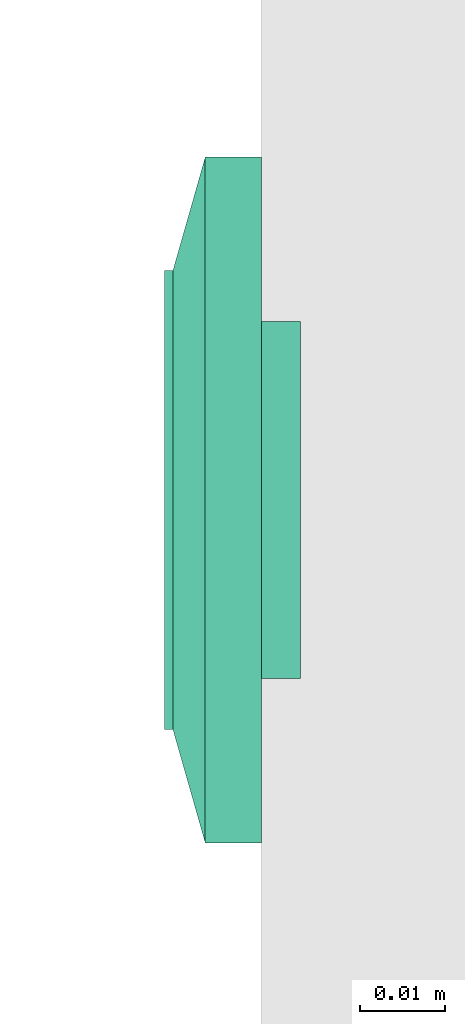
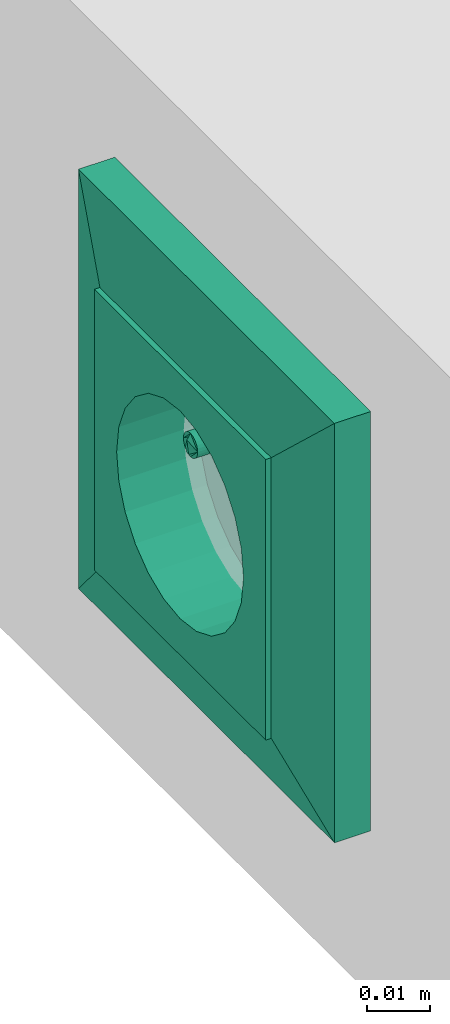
# One storey, part 45 of 166: 1 flow terminal.
"""IFC2X3 building model written with IfcOpenShell, lengths in metres."""

from ifc_helpers import new_model, entity, si_unit, converted_unit, derived_unit, direction, frame, origin, place, context, subcontext, project, spatial, face_set, surface_model, source, transform, mapped, type_object, type_shapes, element, save


model = new_model("IFC2X3")

# Units and contexts
model_context = context("Model", 3, precision=1e-05, world=origin(), true_north=direction((6.12303176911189e-17, 1.0)))
body_context = subcontext(model_context, "Body", "Model", "MODEL_VIEW")
ifc_project = project(units=[si_unit("LENGTHUNIT", "METRE"), si_unit("AREAUNIT", "SQUARE_METRE"), si_unit("VOLUMEUNIT", "CUBIC_METRE"), converted_unit("PLANEANGLEUNIT", "DEGREE", entity("IfcRatioMeasure", 0.0174532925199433), si_unit("PLANEANGLEUNIT", "RADIAN"), dimensions=[0, 0, 0, 0, 0, 0, 0]), si_unit("MASSUNIT", "GRAM", prefix="KILO"), derived_unit("MASSDENSITYUNIT", [(si_unit("MASSUNIT", "GRAM", prefix="KILO"), 1), (si_unit("LENGTHUNIT", "METRE"), -3)]), si_unit("TIMEUNIT", "SECOND"), si_unit("FREQUENCYUNIT", "HERTZ"), si_unit("THERMODYNAMICTEMPERATUREUNIT", "DEGREE_CELSIUS"), derived_unit("THERMALTRANSMITTANCEUNIT", [(si_unit("MASSUNIT", "GRAM", prefix="KILO"), 1), (si_unit("THERMODYNAMICTEMPERATUREUNIT", "KELVIN"), -1), (si_unit("TIMEUNIT", "SECOND"), -3)]), derived_unit("VOLUMETRICFLOWRATEUNIT", [(si_unit("LENGTHUNIT", "METRE"), 3), (si_unit("TIMEUNIT", "SECOND"), -1)]), si_unit("ELECTRICCURRENTUNIT", "AMPERE"), si_unit("ELECTRICVOLTAGEUNIT", "VOLT"), si_unit("POWERUNIT", "WATT"), si_unit("FORCEUNIT", "NEWTON"), si_unit("ILLUMINANCEUNIT", "LUX"), si_unit("LUMINOUSFLUXUNIT", "LUMEN"), si_unit("LUMINOUSINTENSITYUNIT", "CANDELA"), derived_unit("USERDEFINED", [(si_unit("MASSUNIT", "GRAM", prefix="KILO"), -1), (si_unit("LENGTHUNIT", "METRE"), -2), (si_unit("TIMEUNIT", "SECOND"), 3), (si_unit("LUMINOUSFLUXUNIT", "LUMEN"), 1)]), derived_unit("LINEARVELOCITYUNIT", [(si_unit("LENGTHUNIT", "METRE"), 1), (si_unit("TIMEUNIT", "SECOND"), -1)]), si_unit("PRESSUREUNIT", "PASCAL"), derived_unit("USERDEFINED", [(si_unit("LENGTHUNIT", "METRE"), -2), (si_unit("MASSUNIT", "GRAM", prefix="KILO"), 1), (si_unit("TIMEUNIT", "SECOND"), -2)])], contexts=[model_context])

# Site, building, storey
site_placement = place(None, origin())
site = spatial("IfcSite", under=ifc_project, at=site_placement, Name="Default", CompositionType="ELEMENT")
building_placement = place(site_placement, origin())
building = spatial("IfcBuilding", under=site, at=building_placement, CompositionType="ELEMENT")
storey_placement = place(building_placement, frame((0.0, 0.0, 4.27)))
storey = spatial("IfcBuildingStorey", under=building, at=storey_placement, Name="01", CompositionType="ELEMENT", Elevation=4.27)

# Flow terminal
light_fixture_type = type_object("IfcLightFixtureType", Name="PC IP20", PredefinedType="NOTDEFINED")
shared_shape = source(origin(), body_context, "Body", "SurfaceModel", [
    surface_model("IfcFaceBasedSurfaceModel", [(-0.00225000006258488, 0.0127499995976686, 0.00949633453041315), (0.0, 0.0104999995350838, 0.00949633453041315), (0.0, 0.0115376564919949, 0.0101656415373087), (0.0, 0.0139623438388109, 0.0101656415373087), (0.0, 0.0144589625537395, 0.00984531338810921), (0.0, 0.0121178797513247, 0.0102778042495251), (0.0, 0.0133821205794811, 0.0102778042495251), (0.0, 0.0127499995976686, 0.010399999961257), (0.0, 0.0149999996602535, 0.00949633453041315), (0.00225000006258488, 0.0127499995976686, 0.00949633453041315), (0.0, 0.0110410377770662, 0.00984531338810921), (0.0, 0.0127499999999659, 0.00949633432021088), (0.00225000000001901, 0.0127499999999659, 0.00949633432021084), (0.00217333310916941, 0.0121676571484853, 0.00949633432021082), (0.00194855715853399, 0.0116249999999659, 0.00949633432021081), (0.00159099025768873, 0.0111590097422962, 0.00949633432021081), (0.001125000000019, 0.010801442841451, 0.00949633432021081), (0.00058234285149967, 0.0105766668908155, 0.00949633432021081), (0.0, 0.0104999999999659, 0.00949633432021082), (-0.000582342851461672, 0.0105766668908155, 0.00949633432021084), (-0.001124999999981, 0.010801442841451, 0.00949633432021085), (-0.00159099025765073, 0.0111590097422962, 0.00949633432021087), (-0.00194855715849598, 0.011624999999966, 0.00949633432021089), (-0.0021733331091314, 0.0121676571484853, 0.00949633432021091), (-0.00224999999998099, 0.012749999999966, 0.00949633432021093), (-0.00217333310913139, 0.0133323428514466, 0.00949633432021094), (-0.00194855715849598, 0.013874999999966, 0.00949633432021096), (-0.00159099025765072, 0.0143409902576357, 0.00949633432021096), (-0.00112499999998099, 0.0146985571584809, 0.00949633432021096), (-0.00058234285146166, 0.0149233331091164, 0.00949633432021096), (0.0, 0.0149999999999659, 0.00949633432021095), (0.000582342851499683, 0.0149233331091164, 0.00949633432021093), (0.00112500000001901, 0.0146985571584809, 0.00949633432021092), (0.00159099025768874, 0.0143409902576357, 0.00949633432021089), (0.001948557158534, 0.0138749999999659, 0.00949633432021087), (0.00217333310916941, 0.0133323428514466, 0.00949633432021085), (0.00225000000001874, 0.0127499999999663, -0.00360000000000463), (0.00217333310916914, 0.0121676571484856, -0.00360000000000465), (0.00194855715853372, 0.0116249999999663, -0.00360000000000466), (0.00159099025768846, 0.0111590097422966, -0.00360000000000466), (0.00112500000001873, 0.0108014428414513, -0.00360000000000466), (0.000582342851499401, 0.0105766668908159, -0.00360000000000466), (0.0, 0.0104999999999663, -0.00360000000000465), (-0.000582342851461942, 0.0105766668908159, -0.00360000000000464), (-0.00112499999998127, 0.0108014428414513, -0.00360000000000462), (-0.001590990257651, 0.0111590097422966, -0.0036000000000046), (-0.00194855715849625, 0.0116249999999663, -0.00360000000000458), (-0.00217333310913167, 0.0121676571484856, -0.00360000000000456), (-0.00224999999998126, 0.0127499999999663, -0.00360000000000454), (-0.00217333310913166, 0.013332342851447, -0.00360000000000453), (-0.00194855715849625, 0.0138749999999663, -0.00360000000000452), (-0.00159099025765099, 0.014340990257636, -0.00360000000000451), (-0.00112499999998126, 0.0146985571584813, -0.00360000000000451), (-0.000582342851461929, 0.0149233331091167, -0.00360000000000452), (0.0, 0.0149999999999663, -0.00360000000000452), (0.000582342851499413, 0.0149233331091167, -0.00360000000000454), (0.00112500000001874, 0.0146985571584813, -0.00360000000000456), (0.00159099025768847, 0.014340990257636, -0.00360000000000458), (0.00194855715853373, 0.0138749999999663, -0.0036000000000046), (0.00217333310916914, 0.013332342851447, -0.00360000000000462), (0.0270000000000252, 0.026999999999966, 0.0113999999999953), (-0.0269999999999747, 0.026999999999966, 0.0113999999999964), (-0.0269999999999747, -0.0270000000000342, 0.0113999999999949), (0.0270000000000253, -0.0270000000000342, 0.0113999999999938), (-0.0199999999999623, 0.0, 0.0113999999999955), (-0.0193185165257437, -0.00517638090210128, 0.0113999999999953), (-0.0173205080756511, -0.0100000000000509, 0.0113999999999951), (-0.0141421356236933, -0.0141421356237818, 0.011399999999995), (-0.00999999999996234, -0.0173205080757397, 0.0113999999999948), (-0.00517638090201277, -0.0193185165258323, 0.0113999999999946), (0.0, -0.0200000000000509, 0.0113999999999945), (0.00517638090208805, -0.0193185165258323, 0.0113999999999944), (0.0100000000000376, -0.0173205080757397, 0.0113999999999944), (0.0141421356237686, -0.0141421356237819, 0.0113999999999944), (0.0173205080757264, -0.010000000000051, 0.0113999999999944), (0.0193185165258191, -0.00517638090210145, 0.0113999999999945), (0.0200000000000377, 0.0, 0.0113999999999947), (0.0193185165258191, 0.00517638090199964, 0.0113999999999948), (0.0173205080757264, 0.0099999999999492, 0.011399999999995), (0.0141421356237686, 0.0141421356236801, 0.0113999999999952), (0.0100000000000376, 0.0173205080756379, 0.0113999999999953), (0.00517638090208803, 0.0193185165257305, 0.0113999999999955), (0.0, 0.0199999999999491, 0.0113999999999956), (-0.00517638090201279, 0.0193185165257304, 0.0113999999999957), (-0.00999999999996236, 0.0173205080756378, 0.0113999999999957), (-0.0141421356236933, 0.01414213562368, 0.0113999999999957), (-0.0173205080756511, 0.00999999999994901, 0.0113999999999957), (-0.0193185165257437, 0.00517638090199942, 0.0113999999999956), (0.0270000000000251, 0.0269999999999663, 0.00199999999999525), (0.0270000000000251, -0.0270000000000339, 0.00199999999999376), (-0.0269999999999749, -0.0270000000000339, 0.00199999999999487), (-0.0269999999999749, 0.0269999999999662, 0.00199999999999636), (0.0210000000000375, 0.0, 0.00199999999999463), (0.0202844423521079, -0.00543519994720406, 0.00199999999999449), (0.0181865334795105, -0.0105000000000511, 0.0019999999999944), (0.0148492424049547, -0.0148492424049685, 0.00199999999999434), (0.0105000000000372, -0.0181865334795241, 0.00199999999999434), (0.0054351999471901, -0.0202844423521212, 0.00199999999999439), (0.0, -0.0210000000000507, 0.00199999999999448), (-0.00543519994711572, -0.020284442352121, 0.00199999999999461), (-0.0104999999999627, -0.0181865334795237, 0.00199999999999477), (-0.0148492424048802, -0.014849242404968, 0.00199999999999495), (-0.0181865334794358, -0.0105000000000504, 0.00199999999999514), (-0.020284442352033, -0.00543519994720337, 0.00199999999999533), (-0.0209999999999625, 0.0, 0.00199999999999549), (-0.0202844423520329, 0.0054351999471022, 0.00199999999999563), (-0.0181865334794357, 0.0104999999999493, 0.00199999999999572), (-0.01484924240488, 0.0148492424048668, 0.00199999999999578), (-0.0104999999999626, 0.0181865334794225, 0.00199999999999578), (-0.00543519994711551, 0.0202844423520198, 0.00199999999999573), (0.0, 0.0209999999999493, 0.00199999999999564), (0.00543519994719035, 0.0202844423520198, 0.00199999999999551), (0.0105000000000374, 0.0181865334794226, 0.00199999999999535), (0.0148492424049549, 0.0148492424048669, 0.00199999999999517), (0.0181865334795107, 0.0104999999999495, 0.00199999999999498), (0.0202844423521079, 0.00543519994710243, 0.00199999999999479), (0.0200000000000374, 0.0, -0.00360000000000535), (0.0193185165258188, -0.00517638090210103, -0.00360000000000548), (0.0173205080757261, -0.0100000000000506, -0.00360000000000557), (0.0141421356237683, -0.0141421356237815, -0.00360000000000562), (0.0100000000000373, -0.0173205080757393, -0.00360000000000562), (0.00517638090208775, -0.0193185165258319, -0.00360000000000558), (0.0, -0.0200000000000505, -0.00360000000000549), (-0.00517638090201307, -0.0193185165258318, -0.00360000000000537), (-0.00999999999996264, -0.0173205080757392, -0.00360000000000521), (-0.0141421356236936, -0.0141421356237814, -0.00360000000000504), (-0.0173205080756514, -0.0100000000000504, -0.00360000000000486), (-0.019318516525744, -0.00517638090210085, -0.00360000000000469), (-0.0199999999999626, 0.0, -0.00360000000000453), (-0.0193185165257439, 0.00517638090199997, -0.0036000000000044), (-0.0173205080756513, 0.00999999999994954, -0.00360000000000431), (-0.0141421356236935, 0.0141421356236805, -0.00360000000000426), (-0.00999999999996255, 0.0173205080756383, -0.00360000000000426), (-0.00517638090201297, 0.0193185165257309, -0.0036000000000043), (0.0, 0.0199999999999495, -0.00360000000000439), (0.00517638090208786, 0.0193185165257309, -0.00360000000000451), (0.0100000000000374, 0.0173205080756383, -0.00360000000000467), (0.0141421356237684, 0.0141421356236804, -0.00360000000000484), (0.0173205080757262, 0.0099999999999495, -0.00360000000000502), (0.0193185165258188, 0.00517638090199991, -0.00360000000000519), (-0.0123499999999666, 0.0, -0.00360000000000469), (-0.0122562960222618, -0.000711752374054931, -0.00360000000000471), (-0.0119815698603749, -0.00137500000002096, -0.00360000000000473), (-0.0115445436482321, -0.00194454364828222, -0.00360000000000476), (-0.0109749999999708, -0.00238156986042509, -0.00360000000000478), (-0.0103117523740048, -0.00265629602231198, -0.0036000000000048), (-0.00959999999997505, -0.00275000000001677, -0.00360000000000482), (-0.0088882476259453, -0.00265629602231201, -0.00360000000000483), (-0.00822499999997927, -0.00238156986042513, -0.00360000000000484), (-0.00765545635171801, -0.00194454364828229, -0.00360000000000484), (-0.00721843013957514, -0.00137500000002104, -0.00360000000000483), (-0.00694370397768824, -0.000711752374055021, -0.00360000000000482), (-0.00684999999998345, 0.0, -0.0036000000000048), (-0.00694370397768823, 0.000711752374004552, -0.00360000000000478), (-0.00721843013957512, 0.00137499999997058, -0.00360000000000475), (-0.00765545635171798, 0.00194454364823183, -0.00360000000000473), (-0.00822499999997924, 0.00238156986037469, -0.0036000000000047), (-0.00888824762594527, 0.00265629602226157, -0.00360000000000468), (-0.00959999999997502, 0.00274999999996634, -0.00360000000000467), (-0.0103117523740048, 0.00265629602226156, -0.00360000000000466), (-0.0109749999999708, 0.00238156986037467, -0.00360000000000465), (-0.011544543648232, 0.00194454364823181, -0.00360000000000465), (-0.0119815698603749, 0.00137499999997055, -0.00360000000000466), (-0.0122562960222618, 0.000711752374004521, -0.00360000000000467), (0.00685000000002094, 0.0, -0.00360000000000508), (0.0069437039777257, -0.00071175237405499, -0.0036000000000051), (0.00721843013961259, -0.00137500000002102, -0.00360000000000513), (0.00765545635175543, -0.00194454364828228, -0.00360000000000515), (0.00822500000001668, -0.00238156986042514, -0.00360000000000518), (0.00888824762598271, -0.00265629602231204, -0.0036000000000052), (0.00960000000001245, -0.00275000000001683, -0.00360000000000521), (0.0103117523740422, -0.00265629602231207, -0.00360000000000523), (0.0109750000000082, -0.00238156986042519, -0.00360000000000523), (0.0115445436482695, -0.00194454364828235, -0.00360000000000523), (0.0119815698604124, -0.0013750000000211, -0.00360000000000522), (0.0122562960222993, -0.00071175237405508, -0.00360000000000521), (0.012350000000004, 0.0, -0.00360000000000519), (0.0122562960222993, 0.000711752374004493, -0.00360000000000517), (0.0119815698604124, 0.00137499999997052, -0.00360000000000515), (0.0115445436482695, 0.00194454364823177, -0.00360000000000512), (0.0109750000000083, 0.00238156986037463, -0.0036000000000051), (0.0103117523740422, 0.00265629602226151, -0.00360000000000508), (0.00960000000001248, 0.00274999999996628, -0.00360000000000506), (0.00888824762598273, 0.0026562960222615, -0.00360000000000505), (0.0082250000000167, 0.00238156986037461, -0.00360000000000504), (0.00765545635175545, 0.00194454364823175, -0.00360000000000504), (0.0072184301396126, 0.00137499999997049, -0.00360000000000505), (0.00694370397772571, 0.000711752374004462, -0.00360000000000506), (0.0210000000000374, 0.0, -0.00460000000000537), (0.0202844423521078, -0.00543519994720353, -0.00460000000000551), (0.0181865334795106, -0.0105000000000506, -0.0046000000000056), (0.0148492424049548, -0.0148492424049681, -0.00460000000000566), (0.0105000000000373, -0.0181865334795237, -0.00460000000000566), (0.00543519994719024, -0.0202844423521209, -0.00460000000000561), (0.0, -0.0210000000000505, -0.00460000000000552), (-0.00543519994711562, -0.0202844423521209, -0.00460000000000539), (-0.0104999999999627, -0.0181865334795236, -0.00460000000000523), (-0.0148492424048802, -0.0148492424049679, -0.00460000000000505), (-0.0181865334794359, -0.0105000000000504, -0.00460000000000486), (-0.0202844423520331, -0.00543519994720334, -0.00460000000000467), (-0.0209999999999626, 0.0, -0.00460000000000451), (-0.020284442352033, 0.00543519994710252, -0.00460000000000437), (-0.0181865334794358, 0.0104999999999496, -0.00460000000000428), (-0.0148492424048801, 0.0148492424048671, -0.00460000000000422), (-0.0104999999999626, 0.0181865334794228, -0.00460000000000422), (-0.00543519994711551, 0.02028444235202, -0.00460000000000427), (0.0, 0.0209999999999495, -0.00460000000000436), (0.00543519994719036, 0.02028444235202, -0.00460000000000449), (0.0105000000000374, 0.0181865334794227, -0.00460000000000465), (0.0148492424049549, 0.014849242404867, -0.00460000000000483), (0.0181865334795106, 0.0104999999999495, -0.00460000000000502), (0.0202844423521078, 0.00543519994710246, -0.00460000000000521), (-0.00684999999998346, 0.0, -0.0046000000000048), (-0.00694370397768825, 0.000711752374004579, -0.00460000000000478), (-0.00721843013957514, 0.00137499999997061, -0.00460000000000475), (-0.007655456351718, 0.00194454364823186, -0.00460000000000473), (-0.00822499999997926, 0.00238156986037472, -0.0046000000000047), (-0.00888824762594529, 0.0026562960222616, -0.00460000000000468), (-0.00959999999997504, 0.00274999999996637, -0.00460000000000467), (-0.0103117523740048, 0.00265629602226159, -0.00460000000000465), (-0.0109749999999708, 0.0023815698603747, -0.00460000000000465), (-0.0115445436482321, 0.00194454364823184, -0.00460000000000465), (-0.0119815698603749, 0.00137499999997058, -0.00460000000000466), (-0.0122562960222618, 0.000711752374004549, -0.00460000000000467), (-0.0123499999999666, 0.0, -0.00460000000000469), (-0.0122562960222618, -0.000711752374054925, -0.00460000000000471), (-0.0119815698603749, -0.00137500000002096, -0.00460000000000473), (-0.0115445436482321, -0.00194454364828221, -0.00460000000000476), (-0.0109749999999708, -0.00238156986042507, -0.00460000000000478), (-0.0103117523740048, -0.00265629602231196, -0.0046000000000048), (-0.00959999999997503, -0.00275000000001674, -0.00460000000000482), (-0.00888824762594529, -0.00265629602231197, -0.00460000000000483), (-0.00822499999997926, -0.00238156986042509, -0.00460000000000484), (-0.007655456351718, -0.00194454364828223, -0.00460000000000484), (-0.00721843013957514, -0.00137500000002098, -0.00460000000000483), (-0.00694370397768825, -0.000711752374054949, -0.00460000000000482), (0.012350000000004, 0.0, -0.00460000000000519), (0.0122562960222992, 0.000711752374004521, -0.00460000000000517), (0.0119815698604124, 0.00137499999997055, -0.00460000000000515), (0.0115445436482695, 0.0019445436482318, -0.00460000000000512), (0.0109750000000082, 0.00238156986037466, -0.0046000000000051), (0.0103117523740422, 0.00265629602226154, -0.00460000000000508), (0.00960000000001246, 0.00274999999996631, -0.00460000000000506), (0.00888824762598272, 0.00265629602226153, -0.00460000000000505), (0.00822500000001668, 0.00238156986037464, -0.00460000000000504), (0.00765545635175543, 0.00194454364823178, -0.00460000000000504), (0.00721843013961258, 0.00137499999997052, -0.00460000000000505), (0.00694370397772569, 0.00071175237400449, -0.00460000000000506), (0.00685000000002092, 0.0, -0.00460000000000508), (0.00694370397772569, -0.000711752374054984, -0.0046000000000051), (0.00721843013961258, -0.00137500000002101, -0.00460000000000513), (0.00765545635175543, -0.00194454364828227, -0.00460000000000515), (0.00822500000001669, -0.00238156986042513, -0.00460000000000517), (0.00888824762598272, -0.00265629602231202, -0.0046000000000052), (0.00960000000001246, -0.0027500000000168, -0.00460000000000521), (0.0103117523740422, -0.00265629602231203, -0.00460000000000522), (0.0109750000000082, -0.00238156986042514, -0.00460000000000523), (0.0115445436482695, -0.00194454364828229, -0.00460000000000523), (0.0119815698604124, -0.00137500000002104, -0.00460000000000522), (0.0122562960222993, -0.000711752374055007, -0.00460000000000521), (0.040350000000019, 0.0403499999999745, 0.00659999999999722), (0.040350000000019, -0.0403500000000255, 0.00659999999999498), (-0.0403499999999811, -0.0403500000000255, 0.00659999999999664), (-0.0403499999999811, 0.0403499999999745, 0.00659999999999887), (0.027000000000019, 0.0269999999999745, 0.00659999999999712), (-0.0269999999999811, 0.0269999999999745, 0.00659999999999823), (-0.026999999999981, -0.0270000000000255, 0.00659999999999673), (0.027000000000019, -0.0270000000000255, 0.00659999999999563), (0.027000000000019, 0.0269999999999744, 0.0103999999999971), (-0.026999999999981, 0.0269999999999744, 0.0103999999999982), (-0.026999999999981, -0.0270000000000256, 0.0103999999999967), (0.027000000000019, -0.0270000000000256, 0.0103999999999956), (0.040350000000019, 0.0403499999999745, 0.00659999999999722), (0.040350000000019, -0.0403500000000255, 0.00659999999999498), (-0.0403499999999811, -0.0403500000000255, 0.00659999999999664), (-0.0403499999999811, 0.0403499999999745, 0.00659999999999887), (-0.0269999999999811, 0.0269999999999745, 0.00659999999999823), (-0.0269999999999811, -0.0270000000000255, 0.00659999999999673), (0.0270000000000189, -0.0270000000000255, 0.00659999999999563), (0.0270000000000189, 0.0269999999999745, 0.00659999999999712), (0.0403500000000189, 0.0403499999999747, 0.0), (0.0403500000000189, -0.0403500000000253, 0.0), (-0.0403499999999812, -0.0403500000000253, 0.0), (-0.0403499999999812, 0.0403499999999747, 0.0), (0.0270000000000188, 0.0269999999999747, 0.0), (-0.0269999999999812, 0.0269999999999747, 0.0), (-0.0269999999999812, -0.0270000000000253, 0.0), (0.0270000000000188, -0.0270000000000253, 0.0)], [face_set([[[0, 1, 2]], [[3, 4, 2, 5]], [[6, 3, 5, 7]], [[2, 4, 0]], [[4, 8, 0]], [[3, 9, 8]], [[1, 9, 10]], [[2, 3, 6, 7]], [[3, 10, 9]], [[2, 10, 3]], [[11, 1, 0, 8]], [[11, 8, 9, 1]]]), face_set([[[12, 13, 14, 15, 16, 17, 18, 19, 20, 21, 22, 23, 24, 25, 26, 27, 28, 29, 30, 31, 32, 33, 34, 35]], [[36, 37, 38, 39, 40, 41, 42, 43, 44, 45, 46, 47, 48, 49, 50, 51, 52, 53, 54, 55, 56, 57, 58, 59]], [[48, 47, 23, 24]], [[47, 46, 22, 23]], [[45, 44, 20, 21]], [[46, 45, 21, 22]], [[44, 43, 19, 20]], [[18, 19, 43, 42]], [[42, 41, 17, 18]], [[41, 40, 16, 17]], [[39, 38, 14, 15]], [[40, 39, 15, 16]], [[38, 37, 13, 14]], [[12, 13, 37, 36]], [[36, 59, 35, 12]], [[59, 58, 34, 35]], [[57, 56, 32, 33]], [[58, 57, 33, 34]], [[56, 55, 31, 32]], [[30, 31, 55, 54]], [[54, 53, 29, 30]], [[53, 52, 28, 29]], [[51, 50, 26, 27]], [[52, 51, 27, 28]], [[50, 49, 25, 26]], [[24, 25, 49, 48]]]), face_set([[[60, 61, 62, 63], [64, 65, 66, 67, 68, 69, 70, 71, 72, 73, 74, 75, 76, 77, 78, 79, 80, 81, 82, 83, 84, 85, 86, 87]], [[88, 89, 90, 91], [92, 93, 94, 95, 96, 97, 98, 99, 100, 101, 102, 103, 104, 105, 106, 107, 108, 109, 110, 111, 112, 113, 114, 115]], [[61, 60, 88, 91]], [[62, 61, 91, 90]], [[63, 62, 90, 89]], [[60, 63, 89, 88]], [[116, 117, 118, 119, 120, 121, 122, 123, 124, 125, 126, 127, 128, 129, 130, 131, 132, 133, 134, 135, 136, 137, 138, 139], [140, 141, 142, 143, 144, 145, 146, 147, 148, 149, 150, 151, 152, 153, 154, 155, 156, 157, 158, 159, 160, 161, 162, 163], [164, 165, 166, 167, 168, 169, 170, 171, 172, 173, 174, 175, 176, 177, 178, 179, 180, 181, 182, 183, 184, 185, 186, 187]], [[64, 128, 127, 65]], [[65, 127, 126, 66]], [[67, 125, 124, 68]], [[66, 126, 125, 67]], [[68, 124, 123, 69]], [[122, 70, 69, 123]], [[70, 122, 121, 71]], [[71, 121, 120, 72]], [[73, 119, 118, 74]], [[72, 120, 119, 73]], [[74, 118, 117, 75]], [[116, 76, 75, 117]], [[76, 116, 139, 77]], [[77, 139, 138, 78]], [[79, 137, 136, 80]], [[78, 138, 137, 79]], [[80, 136, 135, 81]], [[134, 82, 81, 135]], [[82, 134, 133, 83]], [[83, 133, 132, 84]], [[84, 132, 131, 85]], [[85, 131, 130, 86]], [[130, 129, 87, 86]], [[64, 87, 129, 128]], [[188, 189, 190, 191, 192, 193, 194, 195, 196, 197, 198, 199, 200, 201, 202, 203, 204, 205, 206, 207, 208, 209, 210, 211], [212, 213, 214, 215, 216, 217, 218, 219, 220, 221, 222, 223, 224, 225, 226, 227, 228, 229, 230, 231, 232, 233, 234, 235], [236, 237, 238, 239, 240, 241, 242, 243, 244, 245, 246, 247, 248, 249, 250, 251, 252, 253, 254, 255, 256, 257, 258, 259]], [[200, 199, 103, 104]], [[199, 198, 102, 103]], [[197, 196, 100, 101]], [[198, 197, 101, 102]], [[196, 195, 99, 100]], [[98, 99, 195, 194]], [[194, 193, 97, 98]], [[193, 192, 96, 97]], [[191, 190, 94, 95]], [[192, 191, 95, 96]], [[190, 189, 93, 94]], [[92, 93, 189, 188]], [[188, 211, 115, 92]], [[211, 210, 114, 115]], [[209, 208, 112, 113]], [[210, 209, 113, 114]], [[208, 207, 111, 112]], [[110, 111, 207, 206]], [[206, 205, 109, 110]], [[205, 204, 108, 109]], [[203, 202, 106, 107]], [[204, 203, 107, 108]], [[202, 201, 105, 106]], [[104, 105, 201, 200]], [[141, 225, 226, 142]], [[140, 224, 225, 141]], [[144, 228, 229, 145]], [[143, 227, 228, 144]], [[142, 226, 227, 143]], [[230, 146, 145, 229]], [[149, 233, 232, 148]], [[148, 232, 231, 147]], [[152, 212, 235, 151]], [[151, 235, 234, 150]], [[150, 234, 233, 149]], [[146, 230, 231, 147]], [[154, 214, 213, 153]], [[153, 213, 212, 152]], [[157, 217, 216, 156]], [[156, 216, 215, 155]], [[155, 215, 214, 154]], [[218, 158, 157, 217]], [[160, 220, 221, 161]], [[159, 219, 220, 160]], [[163, 223, 224, 140]], [[162, 222, 223, 163]], [[161, 221, 222, 162]], [[158, 218, 219, 159]], [[166, 250, 249, 165]], [[165, 249, 248, 164]], [[169, 253, 252, 168]], [[168, 252, 251, 167]], [[167, 251, 250, 166]], [[254, 170, 169, 253]], [[172, 256, 257, 173]], [[171, 255, 256, 172]], [[175, 259, 236, 176]], [[174, 258, 259, 175]], [[173, 257, 258, 174]], [[170, 254, 255, 171]], [[177, 237, 238, 178]], [[176, 236, 237, 177]], [[180, 240, 241, 181]], [[179, 239, 240, 180]], [[178, 238, 239, 179]], [[242, 182, 181, 241]], [[185, 245, 244, 184]], [[184, 244, 243, 183]], [[164, 248, 247, 187]], [[187, 247, 246, 186]], [[186, 246, 245, 185]], [[182, 242, 243, 183]]]), face_set([[[260, 261, 262, 263], [264, 265, 266, 267]], [[260, 268, 269, 263]], [[263, 269, 270, 262]], [[262, 270, 271, 261]], [[261, 271, 268, 260]], [[264, 265, 269, 268]], [[265, 266, 270, 269]], [[266, 267, 271, 270]], [[268, 271, 267, 264]]]), face_set([[[272, 273, 274, 275], [276, 277, 278, 279]], [[280, 281, 282, 283], [284, 285, 286, 287]], [[275, 272, 280, 283]], [[274, 275, 283, 282]], [[273, 274, 282, 281]], [[272, 273, 281, 280]], [[284, 285, 276, 279]], [[285, 286, 277, 276]], [[286, 287, 278, 277]], [[279, 278, 287, 284]]])]),
])
type_shapes(light_fixture_type, [shared_shape])
flow_terminal_placement = place(building_placement, frame((33.3667436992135, -190.513554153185, 4.70800000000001), z_axis=(-1.0, 0.0, 0.0), x_axis=(0.0, -1.0, 0.0)))
element("IfcFlowTerminal", 1, at=flow_terminal_placement, inside=storey, type_object=light_fixture_type, Name="INT Prise de courant:PC IP20", ObjectType="INT Prise de courant:PC IP20", context=body_context, shape_type="MappedRepresentation", body=[
    mapped(shared_shape, transform((0.0, 0.0, 0.0), scale=1.0)),
])

save(model, "model.ifc")
